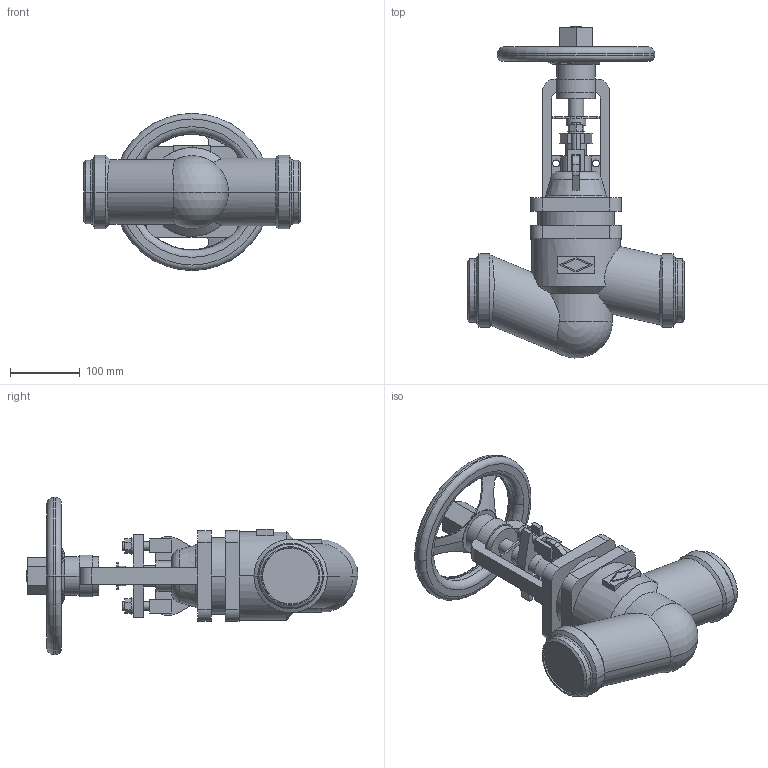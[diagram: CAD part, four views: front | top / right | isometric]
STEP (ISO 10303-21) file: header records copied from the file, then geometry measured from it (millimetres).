
FILE_DESCRIPTION(('OneSpaceDesigner STEP Export'),'2;1');
FILE_NAME('c000004327.stp','2010-05-06T10:47:24',(''),(''),'OneSpace Designer STEP processor for AP214 (Solid Model)','OneSpace Modeling 15.50B 03-Nov-2007 (C) CoCreate Software GmbH','');
FILE_SCHEMA(('AUTOMOTIVE_DESIGN { 1 0 10303 214 1 1 1 1 }'));
Length unit declared in the file: millimetre
Products named in the file (1): 1
Bounding box: 310 x 475.25 x 225 mm (x, y, z)
Volume: 5034596.5 mm3; surface area: 349917.4 mm2
Topology: 1 solids, 1 shells, 300 faces, 798 edges, 518 vertices
Faces by surface type: plane 144, cylinder 104, cone 26, torus 24, sphere 2
Entity records: 12360 total; most frequent: CARTESIAN_POINT 2917, ORIENTED_EDGE 1592, DIRECTION 1294, EDGE_CURVE 796, VERTEX_POINT 518, AXIS2_PLACEMENT_3D 438, VECTOR 418, LINE 418
